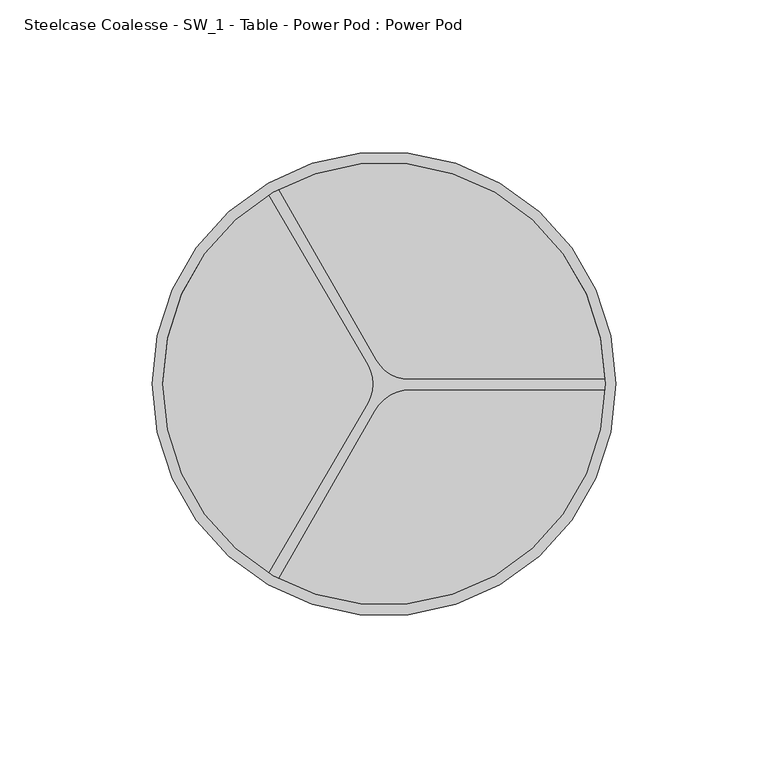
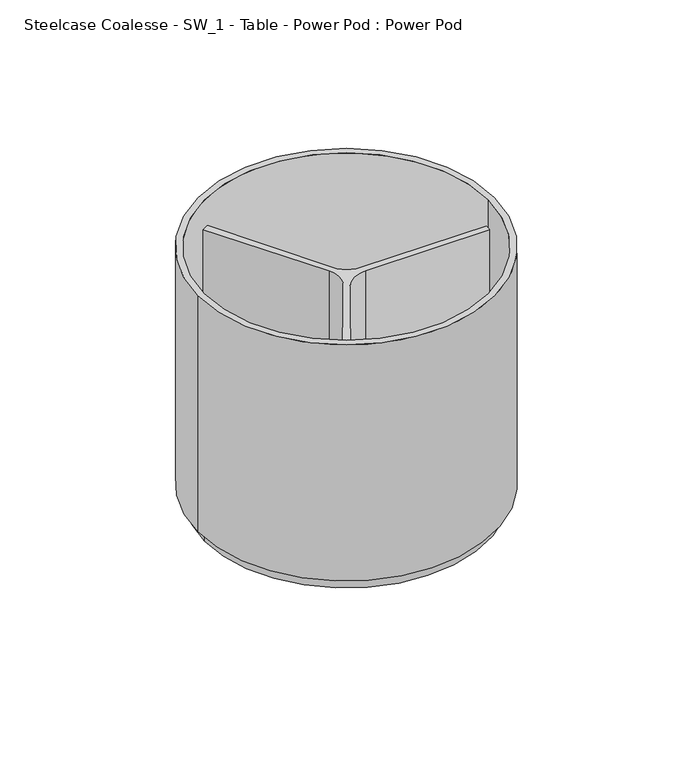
"""IFC4 building model written with IfcOpenShell, lengths in millimetres: furniture geometry, Steelcase Coalesse - SW_1 - Table - Power Pod : Power Pod."""

from ifc_helpers import new_model, si_unit, point, frame, frame_2d, origin, origin_with_axes, origin_2d, place, context, project, spatial, polyline, circle_curve, trimmed, segment, composite_curve, outline, extrude, source, transform, mapped, element, save
from ifc_brep_helpers import plane_surface, cylinder_surface, revolved_surface, advanced_brep


def steelcase_coalesse_sw_1_table_power_pod_power_pod_04608cef(model_context):
    return source(origin(), model_context, "Body", "SolidModel", [
        extrude(outline(composite_curve([segment(trimmed(circle_curve(origin_2d(), 72.7197922), [point((-72.7197922, 0.0))], [point((72.7197922, 0.0))], False, "CARTESIAN"), True, "CONTINUOUS"), segment(trimmed(circle_curve(origin_2d(), 72.7197922), [point((72.7197922, 0.0))], [point((-72.7197922, 0.0))], False, "CARTESIAN"), True, "CONTINUOUS")], self_intersect=False)), frame((0.0, 0.0, 14.6856891), z_axis=(0.0, 0.0, 1.0), x_axis=(1.0, 0.0, 0.0)), (0.0, 0.0, 1.0), 10.522769),
        extrude(outline(composite_curve([segment(polyline([(-38.5673664, 63.3336973), (-35.3781458, 65.1749947), (-2.6801749, 7.9343602)]), True, "CONTINUOUS"), segment(trimmed(circle_curve(frame_2d((8.3981829, 14.2627286)), 12.7584583), [point((-2.6801749, 7.9343602))], [point((8.3641334, 1.5043158))], True, "CARTESIAN"), True, "CONTINUOUS"), segment(polyline([(8.3641334, 1.5043158), (74.8710897, 1.5043158), (74.8710897, -1.8595633), (8.9365033, -1.8595633)]), True, "CONTINUOUS"), segment(trimmed(circle_curve(frame_2d((8.9365033, -15.8951625)), 14.0355992), [point((8.9365033, -1.8595633))], [point((-3.2508148, -8.9333149))], True, "CARTESIAN"), True, "CONTINUOUS"), segment(polyline([(-3.2508148, -8.9333149), (-35.3781458, -65.1749947), (-38.5673664, -63.3336973), (-5.2269308, -6.3274152)]), True, "CONTINUOUS"), segment(trimmed(circle_curve(frame_2d((-16.0456982, 0.0)), 12.5332323), [point((-5.2269308, -6.3274152))], [point((-5.2269308, 6.3274152))], True, "CARTESIAN"), True, "CONTINUOUS"), segment(polyline([(-5.2269308, 6.3274152), (-38.5673664, 63.3336973)]), True, "CONTINUOUS")], self_intersect=False)), frame((0.0, 0.0, 20.9985791), z_axis=(0.0, 0.0, 1.0), x_axis=(1.0, 0.0, 0.0)), (0.0, 0.0, 1.0), 113.0041912),
        advanced_brep(
        [(-39.5234293, 0.0, 2.9685223), (39.5234293, 0.0, 2.9685223), (39.5234293, 0.0, 0.0), (-39.5234293, 0.0, 0.0), (-45.6630413, 0.0, 2.9685223), (45.6630413, 0.0, 2.9685223), (-69.6904107, 0.0, 14.6856891), (69.6904107, 0.0, 14.6856891), (-69.6904107, 0.0, 21.0356891), (69.6904107, 0.0, 21.0356891), (0.0, 0.0, 21.0356891), (0.0, 0.0, 0.0)],
        [
            (0, 1, circle_curve(frame((0.0, 0.0, 2.9685223), z_axis=(0.0, 0.0, -1.0), x_axis=(1.0, 0.0, 0.0)), 39.5234293)),
            (1, 2),
            (2, 3, circle_curve(origin_with_axes(), 39.5234293)),
            (3, 0),
            (1, 0, circle_curve(frame((0.0, 0.0, 2.9685223), z_axis=(0.0, 0.0, -1.0), x_axis=(1.0, 0.0, 0.0)), 39.5234293)),
            (3, 2, circle_curve(origin_with_axes(), 39.5234293)),
            (4, 5, circle_curve(frame((0.0, 0.0, 2.9685223), z_axis=(0.0, 0.0, -1.0), x_axis=(1.0, 0.0, 0.0)), 45.6630413)),
            (5, 1),
            (0, 4),
            (5, 4, circle_curve(frame((0.0, 0.0, 2.9685223), z_axis=(0.0, 0.0, -1.0), x_axis=(1.0, 0.0, 0.0)), 45.6630413)),
            (6, 7, circle_curve(frame((0.0, 0.0, 14.6856891), z_axis=(0.0, 0.0, -1.0), x_axis=(1.0, 0.0, 0.0)), 69.6904107)),
            (7, 5),
            (4, 6),
            (7, 6, circle_curve(frame((0.0, 0.0, 14.6856891), z_axis=(0.0, 0.0, -1.0), x_axis=(1.0, 0.0, 0.0)), 69.6904107)),
            (8, 9, circle_curve(frame((0.0, 0.0, 21.0356891), z_axis=(0.0, 0.0, -1.0), x_axis=(1.0, 0.0, 0.0)), 69.6904107)),
            (9, 7),
            (6, 8),
            (9, 8, circle_curve(frame((0.0, 0.0, 21.0356891), z_axis=(0.0, 0.0, -1.0), x_axis=(1.0, 0.0, 0.0)), 69.6904107)),
            (10, 9),
            (8, 10),
            (2, 11),
            (11, 3),
        ],
        [
            cylinder_surface(frame((0.0, 0.0, 180.8957536), z_axis=(0.0, 0.0, 1.0), x_axis=(1.0, 0.0, 0.0)), 39.5234293),
            plane_surface(frame((0.0, 0.0, 2.9685223), z_axis=(0.0, 0.0, -1.0), x_axis=(1.0, 0.0, 0.0))),
            revolved_surface(polyline([(45.6630413, 0.0, 2.9685223), (69.6904107, 0.0, 14.6856891)]), (0.0, 0.0, 180.8957536), (0.0, 0.0, 1.0)),
            cylinder_surface(frame((0.0, 0.0, 180.8957536), z_axis=(0.0, 0.0, 1.0), x_axis=(1.0, 0.0, 0.0)), 69.6904107),
            plane_surface(frame((0.0, 0.0, 21.0356891), z_axis=(0.0, 0.0, 1.0), x_axis=(1.0, 0.0, 0.0))),
            plane_surface(frame((0.0, 0.0, 0.0), z_axis=(0.0, 0.0, -1.0), x_axis=(1.0, 0.0, 0.0))),
        ],
        [
            (0, [[1, 2, 3, 4]]),
            (0, [[5, -4, 6, -2]]),
            (1, [[7, 8, -1, 9]]),
            (1, [[10, -9, -5, -8]]),
            (2, [[11, 12, -7, 13]]),
            (2, [[14, -13, -10, -12]]),
            (3, [[15, 16, -11, 17]]),
            (3, [[18, -17, -14, -16]]),
            (4, [[19, -15, 20]]),
            (4, [[-20, -18, -19]]),
            (5, [[-3, 21, 22]]),
            (5, [[-6, -22, -21]]),
        ],
    ),
        extrude(outline(composite_curve([segment(trimmed(circle_curve(origin_2d(), 76.2), [point((-76.2, 0.0))], [point((76.2, 0.0))], False, "CARTESIAN"), True, "CONTINUOUS"), segment(trimmed(circle_curve(origin_2d(), 76.2), [point((76.2, 0.0))], [point((-76.2, 0.0))], False, "CARTESIAN"), True, "CONTINUOUS")], self_intersect=False), holes=[composite_curve([segment(trimmed(circle_curve(origin_2d(), 72.7197922), [point((-72.7197922, 0.0))], [point((72.7197922, 0.0))], True, "CARTESIAN"), True, "CONTINUOUS"), segment(trimmed(circle_curve(origin_2d(), 72.7197922), [point((72.7197922, 0.0))], [point((-72.7197922, 0.0))], True, "CARTESIAN"), True, "CONTINUOUS")], self_intersect=False)]), frame((0.0, 0.0, 20.9986042), z_axis=(0.0, 0.0, 1.0), x_axis=(1.0, 0.0, 0.0)), (0.0, 0.0, 1.0), 128.0893452),
    ])


if __name__ == "__main__":
    model = new_model("IFC4")
    model_context = context("Model", 3, world=origin())
    ifc_project = project(units=[si_unit("LENGTHUNIT", "METRE", prefix="MILLI")], contexts=[model_context])
    site = spatial("IfcSite", under=ifc_project)
    building = spatial("IfcBuilding", under=site)
    placement = place(None, origin())
    steelcase_coalesse_sw_1_table_power_pod_power_pod_shape = steelcase_coalesse_sw_1_table_power_pod_power_pod_04608cef(model_context)
    element("IfcFurniture", 1, ObjectType="Steelcase Coalesse - SW_1 - Table - Power Pod : Power Pod", at=placement, inside=building, context=model_context, shape_type="MappedRepresentation", body=[
        mapped(steelcase_coalesse_sw_1_table_power_pod_power_pod_shape, transform((0.0, 0.0, 0.0), x_axis=(1.0, 0.0, 0.0), y_axis=(0.0, 1.0, 0.0), z_axis=(0.0, 0.0, 1.0))),
    ])
    save(model, "model.ifc")
